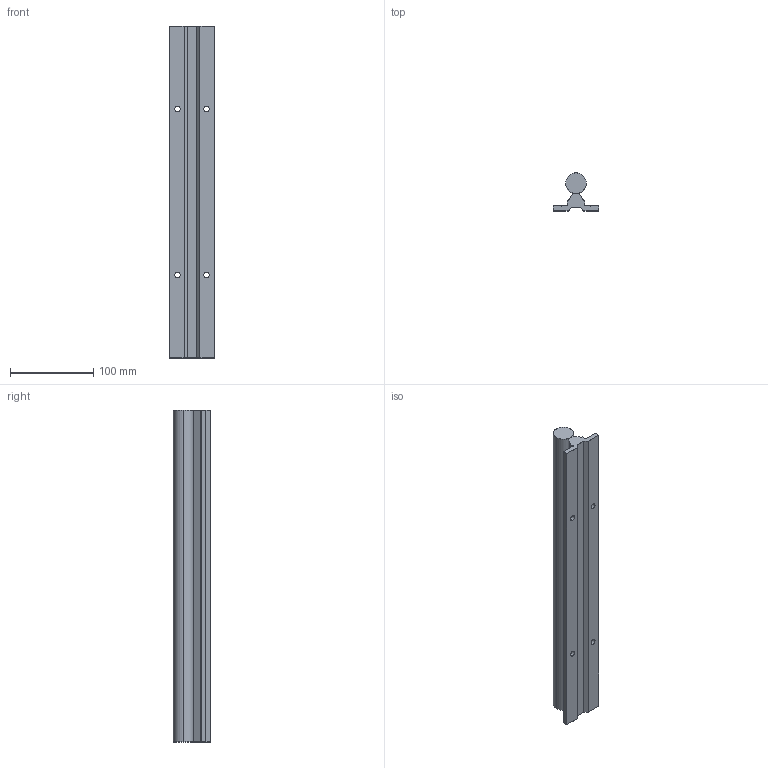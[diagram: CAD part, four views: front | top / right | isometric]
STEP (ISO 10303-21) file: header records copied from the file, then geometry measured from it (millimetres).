
FILE_DESCRIPTION (( 'STEP AP214' ), '1' );
FILE_NAME ('SBR-C25 Öèëèíäðè÷åñêèé ðåëüñ D25 ìì.STEP', '2026-10-19T09:51:22', ( '' ), ( '' ), 'SwSTEP 2.0', 'SolidWorks 2022', '' );
FILE_SCHEMA (( 'AUTOMOTIVE_DESIGN' ));
Length unit declared in the file: millimetre
Products named in the file (1): SBR-C25 Цилиндрический рельс D25 мм
Bounding box: 55 x 45.5 x 400 mm (x, y, z)
Volume: 401901.4 mm3; surface area: 92925.3 mm2
Topology: 2 solids, 2 shells, 181 faces, 453 edges, 244 vertices
Faces by surface type: cylinder 90, plane 35, sphere 28, torus 20, cone 8
Entity records: 7049 total; most frequent: CARTESIAN_POINT 1209, DIRECTION 903, ORIENTED_EDGE 842, EDGE_CURVE 421, AXIS2_PLACEMENT_3D 366, VERTEX_POINT 240, EDGE_LOOP 185, CIRCLE 184
